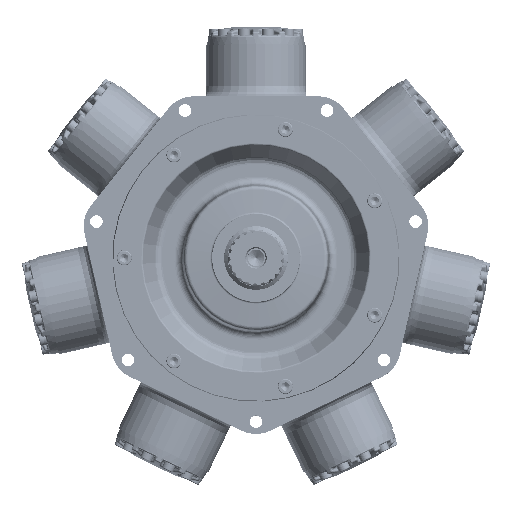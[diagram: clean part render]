
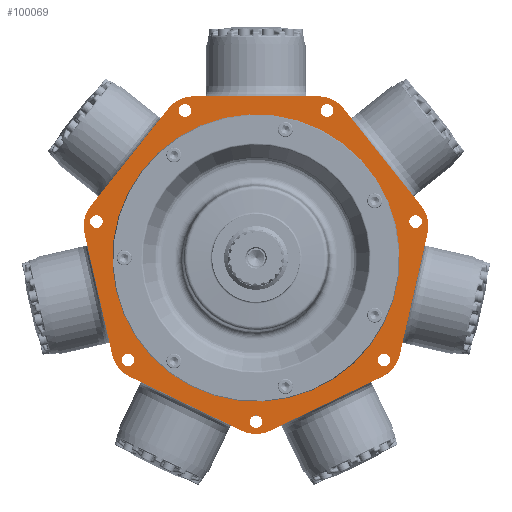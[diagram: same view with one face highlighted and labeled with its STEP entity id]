
A CAD part, top view. The second image highlights one B-rep face of the part: STEP entity #100069.
In plain terms, the highlighted planar face has unit normal (0, 0, 1).
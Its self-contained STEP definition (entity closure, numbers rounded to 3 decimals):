
#2001=FACE_BOUND('',#21470,.T.);
#2002=FACE_BOUND('',#21471,.T.);
#2003=FACE_BOUND('',#21472,.T.);
#2004=FACE_BOUND('',#21473,.T.);
#2005=FACE_BOUND('',#21474,.T.);
#2006=FACE_BOUND('',#21475,.T.);
#2007=FACE_BOUND('',#21476,.T.);
#2008=FACE_BOUND('',#21477,.T.);
#2346=PLANE('',#106416);
#5415=LINE('',#142079,#10176);
#5416=LINE('',#142083,#10177);
#5417=LINE('',#142087,#10178);
#5418=LINE('',#142091,#10179);
#5419=LINE('',#142095,#10180);
#5420=LINE('',#142099,#10181);
#5421=LINE('',#142103,#10182);
#10176=VECTOR('',#115005,10.);
#10177=VECTOR('',#115008,10.);
#10178=VECTOR('',#115011,10.);
#10179=VECTOR('',#115014,10.);
#10180=VECTOR('',#115017,10.);
#10181=VECTOR('',#115020,10.);
#10182=VECTOR('',#115023,10.);
#15153=FACE_OUTER_BOUND('',#21469,.T.);
#21469=EDGE_LOOP('',(#61398,#61399,#61400,#61401,#61402,#61403,#61404,#61405,
#61406,#61407,#61408,#61409,#61410,#61411));
#21470=EDGE_LOOP('',(#61412));
#21471=EDGE_LOOP('',(#61413));
#21472=EDGE_LOOP('',(#61414));
#21473=EDGE_LOOP('',(#61415));
#21474=EDGE_LOOP('',(#61416));
#21475=EDGE_LOOP('',(#61417));
#21476=EDGE_LOOP('',(#61418));
#21477=EDGE_LOOP('',(#61419));
#28110=CIRCLE('',#106417,50.8);
#28111=CIRCLE('',#106418,50.8);
#28112=CIRCLE('',#106419,50.8);
#28113=CIRCLE('',#106420,50.8);
#28114=CIRCLE('',#106421,50.8);
#28115=CIRCLE('',#106422,50.8);
#28116=CIRCLE('',#106423,50.8);
#28117=CIRCLE('',#106424,10.);
#28118=CIRCLE('',#106425,10.);
#28119=CIRCLE('',#106426,10.);
#28120=CIRCLE('',#106427,10.);
#28121=CIRCLE('',#106428,10.);
#28122=CIRCLE('',#106429,10.);
#28123=CIRCLE('',#106430,10.);
#28124=CIRCLE('',#106431,228.555);
#37191=VERTEX_POINT('',#142077);
#37192=VERTEX_POINT('',#142078);
#37193=VERTEX_POINT('',#142080);
#37194=VERTEX_POINT('',#142082);
#37195=VERTEX_POINT('',#142084);
#37196=VERTEX_POINT('',#142086);
#37197=VERTEX_POINT('',#142088);
#37198=VERTEX_POINT('',#142090);
#37199=VERTEX_POINT('',#142092);
#37200=VERTEX_POINT('',#142094);
#37201=VERTEX_POINT('',#142096);
#37202=VERTEX_POINT('',#142098);
#37203=VERTEX_POINT('',#142100);
#37204=VERTEX_POINT('',#142102);
#37205=VERTEX_POINT('',#142105);
#37206=VERTEX_POINT('',#142107);
#37207=VERTEX_POINT('',#142109);
#37208=VERTEX_POINT('',#142111);
#37209=VERTEX_POINT('',#142113);
#37210=VERTEX_POINT('',#142115);
#37211=VERTEX_POINT('',#142117);
#37212=VERTEX_POINT('',#142119);
#46296=EDGE_CURVE('',#37191,#37192,#5415,.T.);
#46297=EDGE_CURVE('',#37193,#37191,#28110,.T.);
#46298=EDGE_CURVE('',#37194,#37193,#5416,.T.);
#46299=EDGE_CURVE('',#37195,#37194,#28111,.T.);
#46300=EDGE_CURVE('',#37196,#37195,#5417,.T.);
#46301=EDGE_CURVE('',#37197,#37196,#28112,.T.);
#46302=EDGE_CURVE('',#37198,#37197,#5418,.T.);
#46303=EDGE_CURVE('',#37199,#37198,#28113,.T.);
#46304=EDGE_CURVE('',#37200,#37199,#5419,.T.);
#46305=EDGE_CURVE('',#37201,#37200,#28114,.T.);
#46306=EDGE_CURVE('',#37202,#37201,#5420,.T.);
#46307=EDGE_CURVE('',#37203,#37202,#28115,.T.);
#46308=EDGE_CURVE('',#37204,#37203,#5421,.T.);
#46309=EDGE_CURVE('',#37192,#37204,#28116,.T.);
#46310=EDGE_CURVE('',#37205,#37205,#28117,.T.);
#46311=EDGE_CURVE('',#37206,#37206,#28118,.T.);
#46312=EDGE_CURVE('',#37207,#37207,#28119,.T.);
#46313=EDGE_CURVE('',#37208,#37208,#28120,.T.);
#46314=EDGE_CURVE('',#37209,#37209,#28121,.T.);
#46315=EDGE_CURVE('',#37210,#37210,#28122,.T.);
#46316=EDGE_CURVE('',#37211,#37211,#28123,.T.);
#46317=EDGE_CURVE('',#37212,#37212,#28124,.T.);
#61398=ORIENTED_EDGE('',*,*,#46296,.F.);
#61399=ORIENTED_EDGE('',*,*,#46297,.F.);
#61400=ORIENTED_EDGE('',*,*,#46298,.F.);
#61401=ORIENTED_EDGE('',*,*,#46299,.F.);
#61402=ORIENTED_EDGE('',*,*,#46300,.F.);
#61403=ORIENTED_EDGE('',*,*,#46301,.F.);
#61404=ORIENTED_EDGE('',*,*,#46302,.F.);
#61405=ORIENTED_EDGE('',*,*,#46303,.F.);
#61406=ORIENTED_EDGE('',*,*,#46304,.F.);
#61407=ORIENTED_EDGE('',*,*,#46305,.F.);
#61408=ORIENTED_EDGE('',*,*,#46306,.F.);
#61409=ORIENTED_EDGE('',*,*,#46307,.F.);
#61410=ORIENTED_EDGE('',*,*,#46308,.F.);
#61411=ORIENTED_EDGE('',*,*,#46309,.F.);
#61412=ORIENTED_EDGE('',*,*,#46310,.T.);
#61413=ORIENTED_EDGE('',*,*,#46311,.T.);
#61414=ORIENTED_EDGE('',*,*,#46312,.T.);
#61415=ORIENTED_EDGE('',*,*,#46313,.T.);
#61416=ORIENTED_EDGE('',*,*,#46314,.T.);
#61417=ORIENTED_EDGE('',*,*,#46315,.T.);
#61418=ORIENTED_EDGE('',*,*,#46316,.T.);
#61419=ORIENTED_EDGE('',*,*,#46317,.F.);
#100069=ADVANCED_FACE('',(#15153,#2001,#2002,#2003,#2004,#2005,#2006,#2007,
#2008),#2346,.F.);
#106416=AXIS2_PLACEMENT_3D('',#142076,#115003,#115004);
#106417=AXIS2_PLACEMENT_3D('',#142081,#115006,#115007);
#106418=AXIS2_PLACEMENT_3D('',#142085,#115009,#115010);
#106419=AXIS2_PLACEMENT_3D('',#142089,#115012,#115013);
#106420=AXIS2_PLACEMENT_3D('',#142093,#115015,#115016);
#106421=AXIS2_PLACEMENT_3D('',#142097,#115018,#115019);
#106422=AXIS2_PLACEMENT_3D('',#142101,#115021,#115022);
#106423=AXIS2_PLACEMENT_3D('',#142104,#115024,#115025);
#106424=AXIS2_PLACEMENT_3D('',#142106,#115026,#115027);
#106425=AXIS2_PLACEMENT_3D('',#142108,#115028,#115029);
#106426=AXIS2_PLACEMENT_3D('',#142110,#115030,#115031);
#106427=AXIS2_PLACEMENT_3D('',#142112,#115032,#115033);
#106428=AXIS2_PLACEMENT_3D('',#142114,#115034,#115035);
#106429=AXIS2_PLACEMENT_3D('',#142116,#115036,#115037);
#106430=AXIS2_PLACEMENT_3D('',#142118,#115038,#115039);
#106431=AXIS2_PLACEMENT_3D('',#142120,#115040,#115041);
#115003=DIRECTION('center_axis',(0.,0.,-1.));
#115004=DIRECTION('ref_axis',(-1.,0.,0.));
#115005=DIRECTION('',(0.623,0.782,0.));
#115006=DIRECTION('center_axis',(0.,0.,-1.));
#115007=DIRECTION('ref_axis',(-0.975,-0.223,0.));
#115008=DIRECTION('',(-0.223,0.975,0.));
#115009=DIRECTION('center_axis',(0.,0.,-1.));
#115010=DIRECTION('ref_axis',(-0.434,-0.901,0.));
#115011=DIRECTION('',(-0.901,0.434,0.));
#115012=DIRECTION('center_axis',(0.,0.,-1.));
#115013=DIRECTION('ref_axis',(0.434,-0.901,0.));
#115014=DIRECTION('',(-0.901,-0.434,0.));
#115015=DIRECTION('center_axis',(0.,0.,-1.));
#115016=DIRECTION('ref_axis',(0.975,-0.223,0.));
#115017=DIRECTION('',(-0.223,-0.975,0.));
#115018=DIRECTION('center_axis',(0.,0.,-1.));
#115019=DIRECTION('ref_axis',(0.782,0.623,0.));
#115020=DIRECTION('',(0.623,-0.782,0.));
#115021=DIRECTION('center_axis',(0.,0.,-1.));
#115022=DIRECTION('ref_axis',(0.,1.,0.));
#115023=DIRECTION('',(1.,0.,0.));
#115024=DIRECTION('center_axis',(0.,0.,-1.));
#115025=DIRECTION('ref_axis',(-0.782,0.623,0.));
#115026=DIRECTION('center_axis',(0.,0.,-1.));
#115027=DIRECTION('ref_axis',(1.,0.,0.));
#115028=DIRECTION('center_axis',(0.,0.,-1.));
#115029=DIRECTION('ref_axis',(1.,0.,0.));
#115030=DIRECTION('center_axis',(0.,0.,-1.));
#115031=DIRECTION('ref_axis',(1.,0.,0.));
#115032=DIRECTION('center_axis',(0.,0.,-1.));
#115033=DIRECTION('ref_axis',(1.,0.,0.));
#115034=DIRECTION('center_axis',(0.,0.,-1.));
#115035=DIRECTION('ref_axis',(1.,0.,0.));
#115036=DIRECTION('center_axis',(0.,0.,-1.));
#115037=DIRECTION('ref_axis',(1.,0.,0.));
#115038=DIRECTION('center_axis',(0.,0.,-1.));
#115039=DIRECTION('ref_axis',(1.,0.,0.));
#115040=DIRECTION('center_axis',(0.,0.,
1.));
#115041=DIRECTION('ref_axis',(0.223,-0.975,0.));
#142076=CARTESIAN_POINT('Origin',(0.,439.494,-6.59));
#142077=CARTESIAN_POINT('',(-263.033,82.644,-6.59));
#142078=CARTESIAN_POINT('',(-139.102,238.048,-6.59));
#142079=CARTESIAN_POINT('',(-62.966,333.52,-6.59));
#142080=CARTESIAN_POINT('',(-272.842,39.666,-6.59));
#142081=CARTESIAN_POINT('Origin',(-223.316,50.97,-6.59));
#142082=CARTESIAN_POINT('',(-228.612,-154.12,-6.59));
#142083=CARTESIAN_POINT('',(-309.457,200.086,-6.59));
#142084=CARTESIAN_POINT('',(-201.127,-188.585,-6.59));
#142085=CARTESIAN_POINT('Origin',(-179.086,-142.816,-6.59));
#142086=CARTESIAN_POINT('',(-22.041,-274.828,-6.59));
#142087=CARTESIAN_POINT('',(-242.258,-168.777,-6.59));
#142088=CARTESIAN_POINT('',(22.041,-274.828,-6.59));
#142089=CARTESIAN_POINT('Origin',(0.,-229.059,
-6.59));
#142090=CARTESIAN_POINT('',(201.127,-188.585,-6.59));
#142091=CARTESIAN_POINT('',(152.715,-211.899,-6.59));
#142092=CARTESIAN_POINT('',(228.612,-154.12,-6.59));
#142093=CARTESIAN_POINT('Origin',(179.086,-142.816,-6.59));
#142094=CARTESIAN_POINT('',(272.842,39.666,-6.59));
#142095=CARTESIAN_POINT('',(287.342,103.193,-6.59));
#142096=CARTESIAN_POINT('',(263.033,82.644,-6.59));
#142097=CARTESIAN_POINT('Origin',(223.316,50.97,-6.59));
#142098=CARTESIAN_POINT('',(139.102,238.048,-6.59));
#142099=CARTESIAN_POINT('',(124.931,255.818,-6.59));
#142100=CARTESIAN_POINT('',(99.385,257.175,-6.59));
#142101=CARTESIAN_POINT('Origin',(99.385,206.375,-6.59));
#142102=CARTESIAN_POINT('',(-99.385,257.175,-6.59));
#142103=CARTESIAN_POINT('',(49.692,257.175,-6.59));
#142104=CARTESIAN_POINT('Origin',(-99.385,206.375,-6.59));
#142105=CARTESIAN_POINT('',(-10.,-260.35,-6.59));
#142106=CARTESIAN_POINT('Origin',(0.,-260.35,-6.59));
#142107=CARTESIAN_POINT('',(243.822,57.933,-6.59));
#142108=CARTESIAN_POINT('Origin',(253.822,57.933,-6.59));
#142109=CARTESIAN_POINT('',(-263.822,57.933,-6.59));
#142110=CARTESIAN_POINT('Origin',(-253.822,57.933,-6.59));
#142111=CARTESIAN_POINT('',(193.55,-162.326,-6.59));
#142112=CARTESIAN_POINT('Origin',(203.55,-162.326,-6.59));
#142113=CARTESIAN_POINT('',(102.962,234.567,-6.59));
#142114=CARTESIAN_POINT('Origin',(112.962,234.567,-6.59));
#142115=CARTESIAN_POINT('',(-122.962,234.567,-6.59));
#142116=CARTESIAN_POINT('Origin',(-112.962,234.567,-6.59));
#142117=CARTESIAN_POINT('',(-213.55,-162.326,-6.59));
#142118=CARTESIAN_POINT('Origin',(-203.55,-162.326,-6.59));
#142119=CARTESIAN_POINT('',(222.825,50.858,-6.59));
#142120=CARTESIAN_POINT('Origin',(0.,0.,
-6.59));
